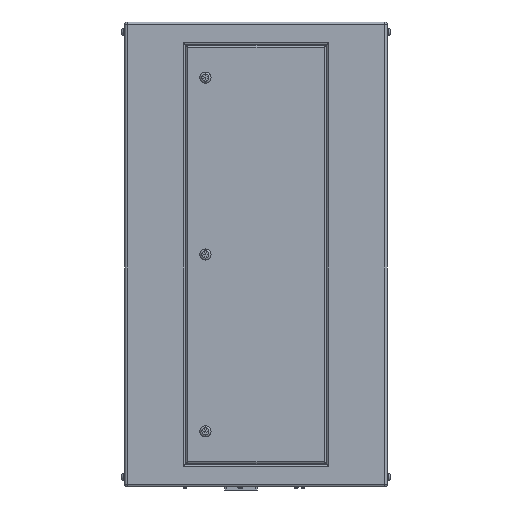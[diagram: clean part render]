
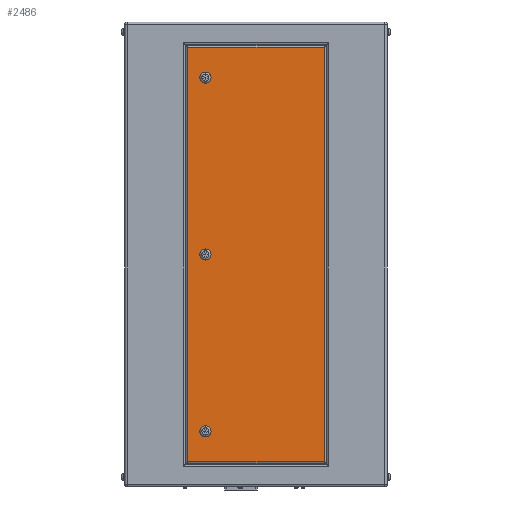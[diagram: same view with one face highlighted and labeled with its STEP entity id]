
A CAD part, left-side view. The second image highlights one B-rep face of the part: STEP entity #2486.
In plain terms, the highlighted planar face has unit normal (-1, 0, 0).
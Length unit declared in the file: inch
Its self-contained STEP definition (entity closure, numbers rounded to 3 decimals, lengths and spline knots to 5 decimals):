
#453 = FACE_BOUND ( 'NONE', #35692, .T. ) ;
#687 = AXIS2_PLACEMENT_3D ( 'NONE', #28776, #6311, #34657 ) ;
#950 = ORIENTED_EDGE ( 'NONE', *, *, #29913, .T. ) ;
#1392 = CARTESIAN_POINT ( 'NONE',  ( -16., 13., 20.49 ) ) ;
#1948 = DIRECTION ( 'NONE',  ( 1., 0., 0. ) ) ;
#2072 = AXIS2_PLACEMENT_3D ( 'NONE', #35033, #17605, #26493 ) ;
#2486 = ADVANCED_FACE ( 'NONE', ( #453, #5938, #17429, #11920 ), #11358, .F. ) ;
#2523 = VERTEX_POINT ( 'NONE', #35041 ) ;
#2917 = DIRECTION ( 'NONE',  ( 0., 0., -1. ) ) ;
#2922 = AXIS2_PLACEMENT_3D ( 'NONE', #21583, #22131, #33167 ) ;
#3207 = VECTOR ( 'NONE', #12044, 39.37008 ) ;
#4142 = VERTEX_POINT ( 'NONE', #28385 ) ;
#4790 = CARTESIAN_POINT ( 'NONE',  ( -16., 5., -17.5 ) ) ;
#5752 = LINE ( 'NONE', #11553, #36966 ) ;
#5938 = FACE_BOUND ( 'NONE', #17034, .T. ) ;
#6177 = DIRECTION ( 'NONE',  ( 0., 0., -1. ) ) ;
#6311 = DIRECTION ( 'NONE',  ( 1., 0., 0. ) ) ;
#6413 = CIRCLE ( 'NONE', #19648, 0.55 ) ;
#6989 = AXIS2_PLACEMENT_3D ( 'NONE', #4790, #1948, #24974 ) ;
#7481 = CARTESIAN_POINT ( 'NONE',  ( -16., 6.74, 20.49 ) ) ;
#8003 = VECTOR ( 'NONE', #32959, 39.37008 ) ;
#8571 = DIRECTION ( 'NONE',  ( 0., 0., -1. ) ) ;
#8760 = VERTEX_POINT ( 'NONE', #10413 ) ;
#8836 = CARTESIAN_POINT ( 'NONE',  ( -16., 5., 0.55 ) ) ;
#9143 = DIRECTION ( 'NONE',  ( 1., 0., 0. ) ) ;
#9468 = AXIS2_PLACEMENT_3D ( 'NONE', #26356, #25966, #6177 ) ;
#10216 = CARTESIAN_POINT ( 'NONE',  ( -16., 5., 16.95 ) ) ;
#10413 = CARTESIAN_POINT ( 'NONE',  ( -16., 5., -0.55 ) ) ;
#10998 = DIRECTION ( 'NONE',  ( 0., 0., 1. ) ) ;
#11278 = VERTEX_POINT ( 'NONE', #10216 ) ;
#11358 = PLANE ( 'NONE',  #687 ) ;
#11553 = CARTESIAN_POINT ( 'NONE',  ( -16., 6.74, -23. ) ) ;
#11920 = FACE_OUTER_BOUND ( 'NONE', #36375, .T. ) ;
#12044 = DIRECTION ( 'NONE',  ( 0., -1., 0. ) ) ;
#12437 = EDGE_CURVE ( 'NONE', #2523, #4142, #28813, .T. ) ;
#12605 = EDGE_CURVE ( 'NONE', #28299, #11278, #27668, .T. ) ;
#13299 = VERTEX_POINT ( 'NONE', #8836 ) ;
#14496 = EDGE_CURVE ( 'NONE', #16821, #15382, #5752, .T. ) ;
#14718 = ORIENTED_EDGE ( 'NONE', *, *, #15296, .T. ) ;
#14989 = VECTOR ( 'NONE', #10998, 39.37008 ) ;
#15248 = VERTEX_POINT ( 'NONE', #24202 ) ;
#15296 = EDGE_CURVE ( 'NONE', #15248, #35446, #20696, .T. ) ;
#15382 = VERTEX_POINT ( 'NONE', #19685 ) ;
#16455 = AXIS2_PLACEMENT_3D ( 'NONE', #17012, #16829, #34438 ) ;
#16529 = CIRCLE ( 'NONE', #2072, 0.55 ) ;
#16821 = VERTEX_POINT ( 'NONE', #7481 ) ;
#16829 = DIRECTION ( 'NONE',  ( 1., 0., 0. ) ) ;
#17012 = CARTESIAN_POINT ( 'NONE',  ( -16., 5., -17.5 ) ) ;
#17034 = EDGE_LOOP ( 'NONE', ( #23340, #37379 ) ) ;
#17062 = EDGE_CURVE ( 'NONE', #11278, #28299, #18550, .T. ) ;
#17429 = FACE_BOUND ( 'NONE', #31833, .T. ) ;
#17605 = DIRECTION ( 'NONE',  ( 1., 0., 0. ) ) ;
#18550 = CIRCLE ( 'NONE', #9468, 0.55 ) ;
#18942 = LINE ( 'NONE', #1392, #8003 ) ;
#19648 = AXIS2_PLACEMENT_3D ( 'NONE', #23094, #9143, #8571 ) ;
#19685 = CARTESIAN_POINT ( 'NONE',  ( -16., 6.74, -20.49 ) ) ;
#20696 = CIRCLE ( 'NONE', #16455, 0.55 ) ;
#21583 = CARTESIAN_POINT ( 'NONE',  ( -16., 5., 17.5 ) ) ;
#22131 = DIRECTION ( 'NONE',  ( 1., 0., 0. ) ) ;
#23094 = CARTESIAN_POINT ( 'NONE',  ( -16., 5., 0. ) ) ;
#23340 = ORIENTED_EDGE ( 'NONE', *, *, #35907, .T. ) ;
#23541 = ORIENTED_EDGE ( 'NONE', *, *, #17062, .T. ) ;
#23630 = CARTESIAN_POINT ( 'NONE',  ( -16., 5., -18.05 ) ) ;
#24202 = CARTESIAN_POINT ( 'NONE',  ( -16., 5., -16.95 ) ) ;
#24389 = ORIENTED_EDGE ( 'NONE', *, *, #35027, .T. ) ;
#24974 = DIRECTION ( 'NONE',  ( 0., 0., -1. ) ) ;
#25483 = ORIENTED_EDGE ( 'NONE', *, *, #12437, .T. ) ;
#25639 = CIRCLE ( 'NONE', #6989, 0.55 ) ;
#25671 = ORIENTED_EDGE ( 'NONE', *, *, #12605, .T. ) ;
#25966 = DIRECTION ( 'NONE',  ( 1., 0., 0. ) ) ;
#26356 = CARTESIAN_POINT ( 'NONE',  ( -16., 5., 17.5 ) ) ;
#26451 = CARTESIAN_POINT ( 'NONE',  ( -16., 13., -20.49 ) ) ;
#26493 = DIRECTION ( 'NONE',  ( 0., 0., -1. ) ) ;
#27668 = CIRCLE ( 'NONE', #2922, 0.55 ) ;
#28299 = VERTEX_POINT ( 'NONE', #37138 ) ;
#28385 = CARTESIAN_POINT ( 'NONE',  ( -16., -6.74, 20.49 ) ) ;
#28776 = CARTESIAN_POINT ( 'NONE',  ( -16., 13., -23. ) ) ;
#28813 = LINE ( 'NONE', #36914, #14989 ) ;
#28851 = ORIENTED_EDGE ( 'NONE', *, *, #33916, .T. ) ;
#29913 = EDGE_CURVE ( 'NONE', #35446, #15248, #25639, .T. ) ;
#31131 = ORIENTED_EDGE ( 'NONE', *, *, #14496, .T. ) ;
#31833 = EDGE_LOOP ( 'NONE', ( #23541, #25671 ) ) ;
#32959 = DIRECTION ( 'NONE',  ( 0., 1., 0. ) ) ;
#33167 = DIRECTION ( 'NONE',  ( 0., 0., -1. ) ) ;
#33916 = EDGE_CURVE ( 'NONE', #4142, #16821, #18942, .T. ) ;
#34438 = DIRECTION ( 'NONE',  ( 0., 0., -1. ) ) ;
#34657 = DIRECTION ( 'NONE',  ( 0., 0., -1. ) ) ;
#35027 = EDGE_CURVE ( 'NONE', #15382, #2523, #35353, .T. ) ;
#35033 = CARTESIAN_POINT ( 'NONE',  ( -16., 5., 0. ) ) ;
#35041 = CARTESIAN_POINT ( 'NONE',  ( -16., -6.74, -20.49 ) ) ;
#35353 = LINE ( 'NONE', #26451, #3207 ) ;
#35446 = VERTEX_POINT ( 'NONE', #23630 ) ;
#35692 = EDGE_LOOP ( 'NONE', ( #950, #14718 ) ) ;
#35907 = EDGE_CURVE ( 'NONE', #8760, #13299, #16529, .T. ) ;
#36375 = EDGE_LOOP ( 'NONE', ( #24389, #25483, #28851, #31131 ) ) ;
#36914 = CARTESIAN_POINT ( 'NONE',  ( -16., -6.74, -23. ) ) ;
#36956 = EDGE_CURVE ( 'NONE', #13299, #8760, #6413, .T. ) ;
#36966 = VECTOR ( 'NONE', #2917, 39.37008 ) ;
#37138 = CARTESIAN_POINT ( 'NONE',  ( -16., 5., 18.05 ) ) ;
#37379 = ORIENTED_EDGE ( 'NONE', *, *, #36956, .T. ) ;
